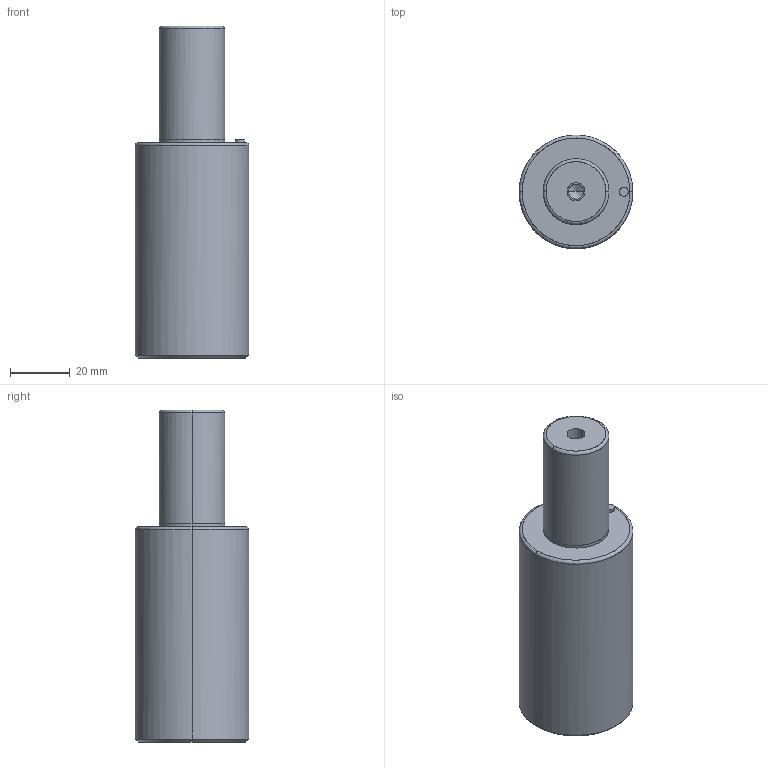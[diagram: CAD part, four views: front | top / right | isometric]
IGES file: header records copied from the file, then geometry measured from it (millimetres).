
Global section: file name: E:\UnigraphicsGraphicData\MISUMI_PRESS-PARTS\IGES\3d_gsc38-38_03846_r00.igs; native system: NX V5.0; preprocessor: UGS NX IGES V5.0; author: MISUMI; date: 20110105.160747; units: millimetre
Bounding box: 38 x 37.93 x 111 mm (x, y, z)
Surface area: 14009.1 mm2 (no closed solid volume)
Topology: 0 solids, 0 shells, 32 faces, 216 edges, 212 vertices
Faces by surface type: bspline 32
